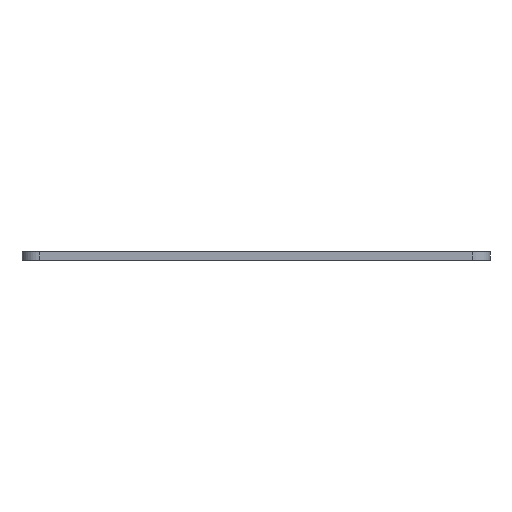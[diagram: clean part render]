
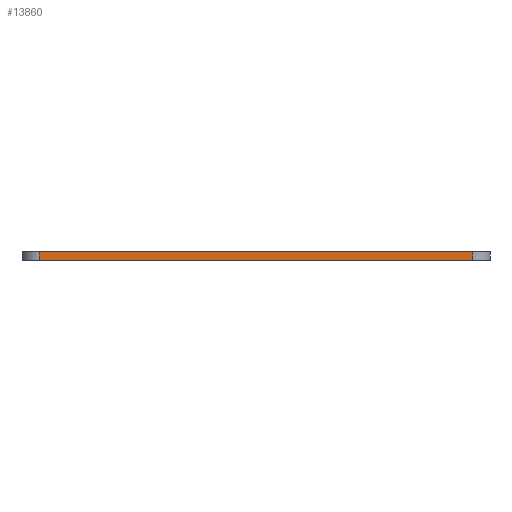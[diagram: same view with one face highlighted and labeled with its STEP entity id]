
A CAD part, left-side view. The second image highlights one B-rep face of the part: STEP entity #13860.
In plain terms, the highlighted planar face has unit normal (-1, 0, 0).
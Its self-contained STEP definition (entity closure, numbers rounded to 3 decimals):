
#11737 = VERTEX_POINT('',#11738);
#11738 = CARTESIAN_POINT('',(0.,-3.,0.));
#11745 = EDGE_CURVE('',#11746,#11737,#11748,.T.);
#11746 = VERTEX_POINT('',#11747);
#11747 = CARTESIAN_POINT('',(0.,-79.5,0.));
#11748 = LINE('',#11749,#11750);
#11749 = CARTESIAN_POINT('',(0.,-79.5,0.));
#11750 = VECTOR('',#11751,1.);
#11751 = DIRECTION('',(0.,1.,0.));
#12785 = VERTEX_POINT('',#12786);
#12786 = CARTESIAN_POINT('',(0.,-3.,1.51));
#12793 = EDGE_CURVE('',#12794,#12785,#12796,.T.);
#12794 = VERTEX_POINT('',#12795);
#12795 = CARTESIAN_POINT('',(0.,-79.5,1.51));
#12796 = LINE('',#12797,#12798);
#12797 = CARTESIAN_POINT('',(0.,-79.5,1.51));
#12798 = VECTOR('',#12799,1.);
#12799 = DIRECTION('',(0.,1.,0.));
#13830 = EDGE_CURVE('',#11737,#12785,#13831,.T.);
#13831 = LINE('',#13832,#13833);
#13832 = CARTESIAN_POINT('',(0.,-3.,0.));
#13833 = VECTOR('',#13834,1.);
#13834 = DIRECTION('',(0.,0.,1.));
#13860 = ADVANCED_FACE('',(#13861),#13872,.T.);
#13861 = FACE_BOUND('',#13862,.T.);
#13862 = EDGE_LOOP('',(#13863,#13869,#13870,#13871));
#13863 = ORIENTED_EDGE('',*,*,#13864,.T.);
#13864 = EDGE_CURVE('',#11746,#12794,#13865,.T.);
#13865 = LINE('',#13866,#13867);
#13866 = CARTESIAN_POINT('',(0.,-79.5,0.));
#13867 = VECTOR('',#13868,1.);
#13868 = DIRECTION('',(0.,0.,1.));
#13869 = ORIENTED_EDGE('',*,*,#12793,.T.);
#13870 = ORIENTED_EDGE('',*,*,#13830,.F.);
#13871 = ORIENTED_EDGE('',*,*,#11745,.F.);
#13872 = PLANE('',#13873);
#13873 = AXIS2_PLACEMENT_3D('',#13874,#13875,#13876);
#13874 = CARTESIAN_POINT('',(0.,-79.5,0.));
#13875 = DIRECTION('',(-1.,0.,0.));
#13876 = DIRECTION('',(0.,1.,0.));
